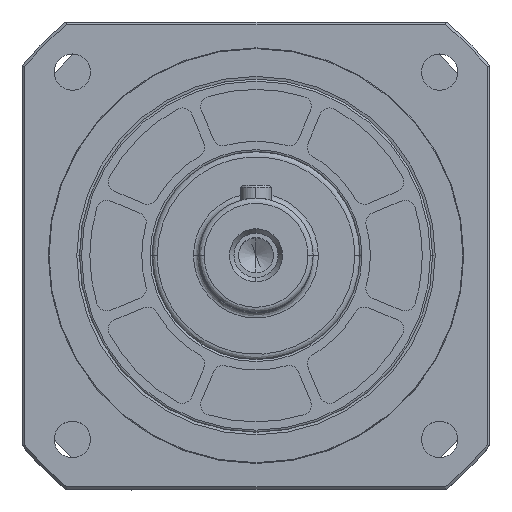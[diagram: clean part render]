
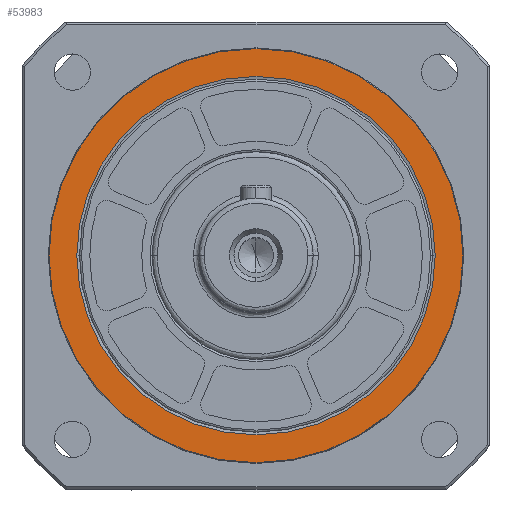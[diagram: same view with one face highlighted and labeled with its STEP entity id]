
A CAD part, top view. The second image highlights one B-rep face of the part: STEP entity #53983.
In plain terms, the highlighted planar face has unit normal (0, 0, 1).
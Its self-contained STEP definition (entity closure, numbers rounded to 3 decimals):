
#118 = DIRECTION ( 'NONE',  ( 0., 0., -1. ) ) ;
#569 = CIRCLE ( 'NONE', #70568, 34.5 ) ;
#614 = VERTEX_POINT ( 'NONE', #82198 ) ;
#1127 = EDGE_LOOP ( 'NONE', ( #96309, #57146 ) ) ;
#3168 = VERTEX_POINT ( 'NONE', #31269 ) ;
#5964 = CIRCLE ( 'NONE', #44155, 34.5 ) ;
#7741 = DIRECTION ( 'NONE',  ( 0., 0., 1. ) ) ;
#10488 = AXIS2_PLACEMENT_3D ( 'NONE', #88413, #42602, #96146 ) ;
#14185 = CARTESIAN_POINT ( 'NONE',  ( 0., 39.866, 58.5 ) ) ;
#16094 = AXIS2_PLACEMENT_3D ( 'NONE', #53402, #7741, #61164 ) ;
#17279 = DIRECTION ( 'NONE',  ( 1., 0., 0. ) ) ;
#18653 = CIRCLE ( 'NONE', #10488, 39.866 ) ;
#28795 = EDGE_LOOP ( 'NONE', ( #82186, #87369 ) ) ;
#31227 = CARTESIAN_POINT ( 'NONE',  ( 0., 0., 58.5 ) ) ;
#31269 = CARTESIAN_POINT ( 'NONE',  ( -34.5, 0., 58.5 ) ) ;
#33802 = VERTEX_POINT ( 'NONE', #14185 ) ;
#38878 = DIRECTION ( 'NONE',  ( 0., 1., 0. ) ) ;
#42602 = DIRECTION ( 'NONE',  ( 0., 0., 1. ) ) ;
#44155 = AXIS2_PLACEMENT_3D ( 'NONE', #82417, #63109, #17279 ) ;
#45705 = CARTESIAN_POINT ( 'NONE',  ( 0., 0., 58.5 ) ) ;
#53366 = DIRECTION ( 'NONE',  ( 1., 0., 0. ) ) ;
#53402 = CARTESIAN_POINT ( 'NONE',  ( -40.344, -40.344, 58.5 ) ) ;
#53983 = ADVANCED_FACE ( 'NONE', ( #81795, #63898 ), #91232, .T. ) ;
#57146 = ORIENTED_EDGE ( 'NONE', *, *, #78367, .T. ) ;
#58695 = EDGE_CURVE ( 'NONE', #80967, #3168, #5964, .T. ) ;
#61164 = DIRECTION ( 'NONE',  ( 1., 0., 0. ) ) ;
#63109 = DIRECTION ( 'NONE',  ( 0., 0., -1. ) ) ;
#63898 = FACE_OUTER_BOUND ( 'NONE', #28795, .T. ) ;
#70399 = CARTESIAN_POINT ( 'NONE',  ( 34.5, 0., 58.5 ) ) ;
#70568 = AXIS2_PLACEMENT_3D ( 'NONE', #45705, #118, #53366 ) ;
#78367 = EDGE_CURVE ( 'NONE', #3168, #80967, #569, .T. ) ;
#80967 = VERTEX_POINT ( 'NONE', #70399 ) ;
#81795 = FACE_BOUND ( 'NONE', #1127, .T. ) ;
#82186 = ORIENTED_EDGE ( 'NONE', *, *, #85306, .T. ) ;
#82198 = CARTESIAN_POINT ( 'NONE',  ( 0., -39.866, 58.5 ) ) ;
#82417 = CARTESIAN_POINT ( 'NONE',  ( 0., 0., 58.5 ) ) ;
#84670 = DIRECTION ( 'NONE',  ( 0., 0., 1. ) ) ;
#85306 = EDGE_CURVE ( 'NONE', #33802, #614, #18653, .T. ) ;
#87369 = ORIENTED_EDGE ( 'NONE', *, *, #90621, .T. ) ;
#88326 = AXIS2_PLACEMENT_3D ( 'NONE', #31227, #84670, #38878 ) ;
#88413 = CARTESIAN_POINT ( 'NONE',  ( 0., 0., 58.5 ) ) ;
#90621 = EDGE_CURVE ( 'NONE', #614, #33802, #91032, .T. ) ;
#91032 = CIRCLE ( 'NONE', #88326, 39.866 ) ;
#91232 = PLANE ( 'NONE',  #16094 ) ;
#96146 = DIRECTION ( 'NONE',  ( 0., 1., 0. ) ) ;
#96309 = ORIENTED_EDGE ( 'NONE', *, *, #58695, .T. ) ;
